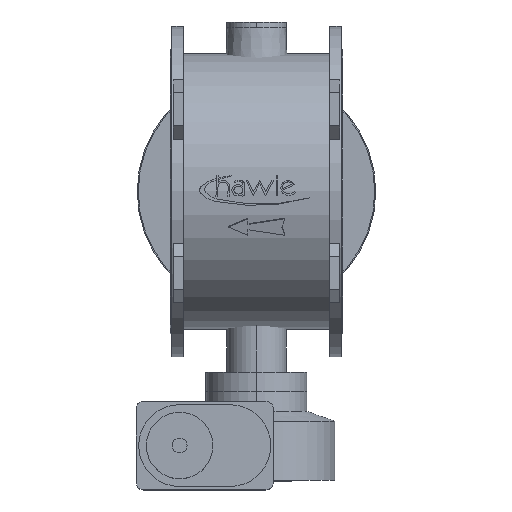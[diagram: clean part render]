
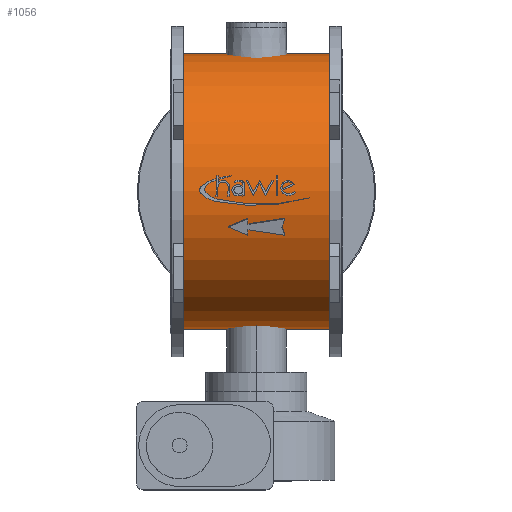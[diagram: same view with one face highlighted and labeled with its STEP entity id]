
A CAD part, top view. The second image highlights one B-rep face of the part: STEP entity #1056.
In plain terms, the highlighted cylindrical face has radius 279.5 mm (diameter 559 mm), a partial arc.
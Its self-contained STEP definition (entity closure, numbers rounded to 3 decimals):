
#1056=ADVANCED_FACE('',(#2235),#2236,.T.);
#2235=FACE_OUTER_BOUND('',#3989,.T.);
#2236=CYLINDRICAL_SURFACE('',#3990,279.5);
#3989=EDGE_LOOP('',(#5686,#5687,#5688,#5689));
#3990=AXIS2_PLACEMENT_3D('',#5690,#5691,#5692);
#5686=ORIENTED_EDGE('',*,*,#9011,.T.);
#5687=ORIENTED_EDGE('',*,*,#9242,.T.);
#5688=ORIENTED_EDGE('',*,*,#9013,.T.);
#5689=ORIENTED_EDGE('',*,*,#9243,.T.);
#5690=CARTESIAN_POINT('',(-323.5,0.,0.0));
#5691=DIRECTION('',(1.0,0.,0.0));
#5692=DIRECTION('',(0.,-1.0,0.0));
#9011=EDGE_CURVE('',#10475,#10476,#10477,.T.);
#9013=EDGE_CURVE('',#10480,#10478,#10481,.T.);
#9242=EDGE_CURVE('',#10476,#10480,#10880,.T.);
#9243=EDGE_CURVE('',#10478,#10475,#10881,.T.);
#10475=VERTEX_POINT('',#12582);
#10476=VERTEX_POINT('',#12583);
#10477=LINE('',#12584,#12585);
#10478=VERTEX_POINT('',#12586);
#10480=VERTEX_POINT('',#12588);
#10481=LINE('',#12589,#12590);
#10880=CIRCLE('',#13099,279.5);
#10881=CIRCLE('',#13100,279.5);
#12582=CARTESIAN_POINT('',(-323.5,-279.5,0.0));
#12583=CARTESIAN_POINT('',(-26.5,-279.5,0.0));
#12584=CARTESIAN_POINT('',(-323.5,-279.5,0.));
#12585=VECTOR('',#15208,1.0);
#12586=CARTESIAN_POINT('',(-323.5,279.5,0.));
#12588=CARTESIAN_POINT('',(-26.5,279.5,0.));
#12589=CARTESIAN_POINT('',(-323.5,279.5,0.));
#12590=VECTOR('',#15212,1.0);
#13099=AXIS2_PLACEMENT_3D('',#15530,#15531,#15532);
#13100=AXIS2_PLACEMENT_3D('',#15533,#15534,#15535);
#15208=DIRECTION('',(1.0,0.,0.0));
#15212=DIRECTION('',(-1.0,0.,-0.0));
#15530=CARTESIAN_POINT('',(-26.5,0.,0.0));
#15531=DIRECTION('',(-1.0,0.,0.0));
#15532=DIRECTION('',(0.,-1.0,0.0));
#15533=CARTESIAN_POINT('',(-323.5,0.,0.0));
#15534=DIRECTION('',(1.0,0.,0.0));
#15535=DIRECTION('',(0.,-1.0,0.0));
